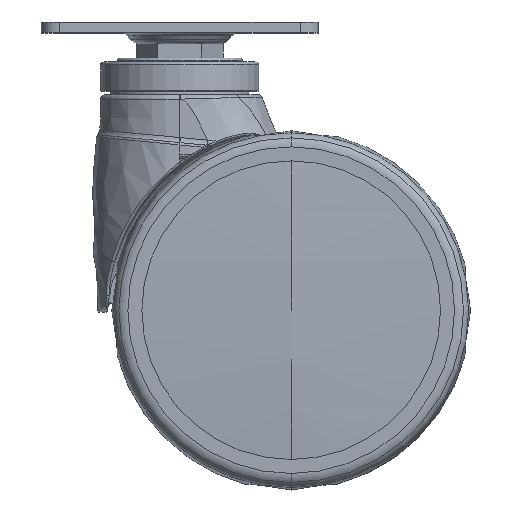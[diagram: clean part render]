
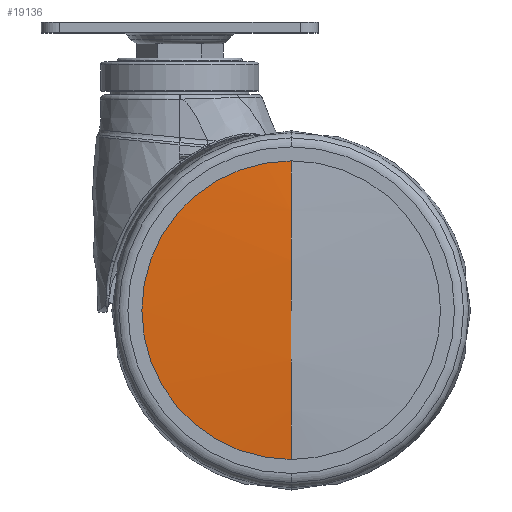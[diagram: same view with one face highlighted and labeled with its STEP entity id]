
A CAD part, top view. The second image highlights one B-rep face of the part: STEP entity #19136.
In plain terms, the highlighted spherical face has radius 560 mm.
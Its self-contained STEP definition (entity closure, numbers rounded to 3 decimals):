
#18977=CARTESIAN_POINT('',(-557.073,0.,0.));
#18978=DIRECTION('',(0.,0.,-1.));
#18979=DIRECTION('',(0.997,0.074,0.));
#18980=AXIS2_PLACEMENT_3D('',#18977,#18978,#18979);
#18982=CARTESIAN_POINT('',(1.384,0.,0.));
#18983=DIRECTION('',(-1.,0.,0.));
#18984=DIRECTION('',(0.,-1.,0.));
#18985=AXIS2_PLACEMENT_3D('',#18982,#18983,#18984);
#18992=CARTESIAN_POINT('',(-557.073,0.,0.));
#18993=DIRECTION('',(0.,0.,1.));
#18994=DIRECTION('',(0.997,-0.074,0.));
#18995=AXIS2_PLACEMENT_3D('',#18992,#18993,#18994);
#19095=CARTESIAN_POINT('',(1.384,41.55,0.));
#19096=CARTESIAN_POINT('',(2.927,0.,0.));
#19097=VERTEX_POINT('',#19095);
#19098=VERTEX_POINT('',#19096);
#19099=CARTESIAN_POINT('',(1.384,-41.55,0.));
#19100=VERTEX_POINT('',#19099);
#19123=CARTESIAN_POINT('',(-557.073,0.,0.));
#19124=DIRECTION('',(1.,0.,0.));
#19125=DIRECTION('',(0.,-1.,0.));
#19126=AXIS2_PLACEMENT_3D('',#19123,#19124,#19125);
#19127=SPHERICAL_SURFACE('',#19126,560.);
#19129=ORIENTED_EDGE('',*,*,#19128,.T.);
#19131=ORIENTED_EDGE('',*,*,#19130,.F.);
#19133=ORIENTED_EDGE('',*,*,#19132,.T.);
#19134=EDGE_LOOP('',(#19129,#19131,#19133));
#19135=FACE_OUTER_BOUND('',#19134,.F.);
#18981=CIRCLE('',#18980,560.);
#18986=CIRCLE('',#18985,41.55);
#18996=CIRCLE('',#18995,560.);
#19128=EDGE_CURVE('',#19097,#19098,#18981,.T.);
#19130=EDGE_CURVE('',#19100,#19098,#18996,.T.);
#19132=EDGE_CURVE('',#19100,#19097,#18986,.T.);
#19136=ADVANCED_FACE('',(#19135),#19127,.T.);
